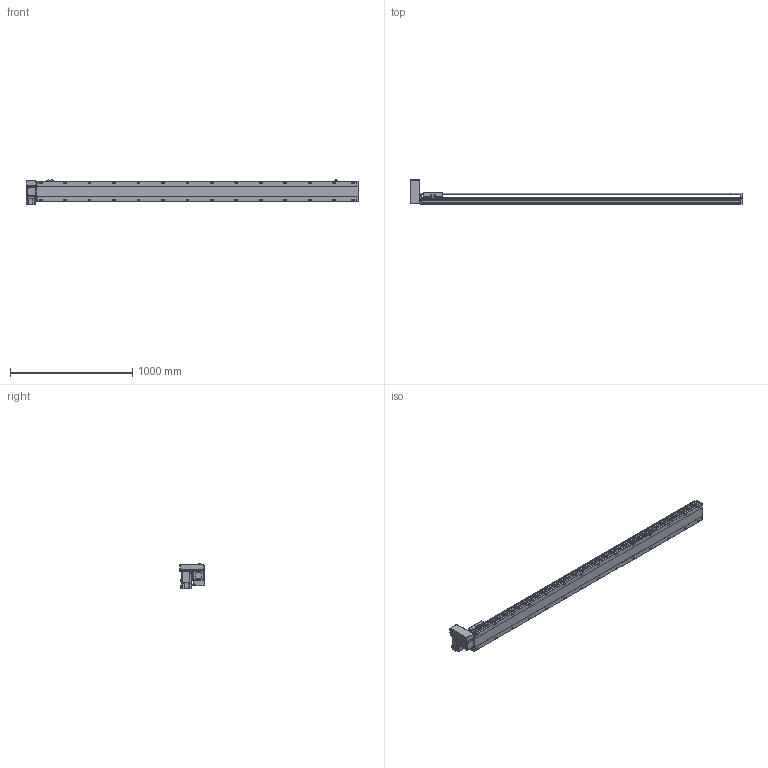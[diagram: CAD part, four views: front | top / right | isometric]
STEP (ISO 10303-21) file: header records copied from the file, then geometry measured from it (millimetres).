
FILE_DESCRIPTION( ( 'STEP AP214' ), '1' );
FILE_NAME( 'x:/temp/worker_5/temp/exporttempdir_3988_141_yBqEQ/format_0/PBS170-P40-S2350-RU-T75-C1-N(0).stp', '2022-06-08T06:00:29', ( 'License CC BY-ND 4.0' ), ( 'CADENAS' ), ' ', 'PARTsolutions', ' ' );
FILE_SCHEMA( ( 'AUTOMOTIVE_DESIGN { 1 0 10303 214 1 1 1 1 }' ) );
Length unit declared in the file: millimetre
Products named in the file (7): PBS170-P40-S2350-RU-T75-C1-N(0); _PBS170-S2350()_body; _PBS170T-RU_motors; _T75-p1; _PBS170_sliser; _PBS170_plant; _PBS170_sensor
Assembly tree (8 placements, depth 2):
  PBS170-P40-S2350-RU-T75-C1-N(0)
    _PBS170-S2350()_body
    _PBS170T-RU_motors
    _T75-p1
    _PBS170_sliser
    _PBS170_plant
    _PBS170_sensor  x3
Bounding box: 2713 x 206 x 205.3 mm (x, y, z)
Volume: 20610159.3 mm3; surface area: 2600493.6 mm2
Topology: 8 solids, 8 shells, 1178 faces, 3115 edges, 2030 vertices
Faces by surface type: plane 723, cylinder 387, cone 58, sphere 8, torus 2
Full cylindrical faces by diameter (mm): 3.242 x4, 4 x2, 4.4 x4, 4.5 x6, 4.917 x4, 6 x9, 6.647 x36, 7 x2, 7.5 x4, 8 x8, 8.5 x28, 10 x4, 10.5 x28, 11 x2, 30 x2, 40 x1, 70 x1
Entity records: 43592 total; most frequent: CARTESIAN_POINT 7229, DIRECTION 5720, ORIENTED_EDGE 5388, EDGE_CURVE 2694, AXIS2_PLACEMENT_3D 2017, VERTEX_POINT 1874, LINE 1686, VECTOR 1686
